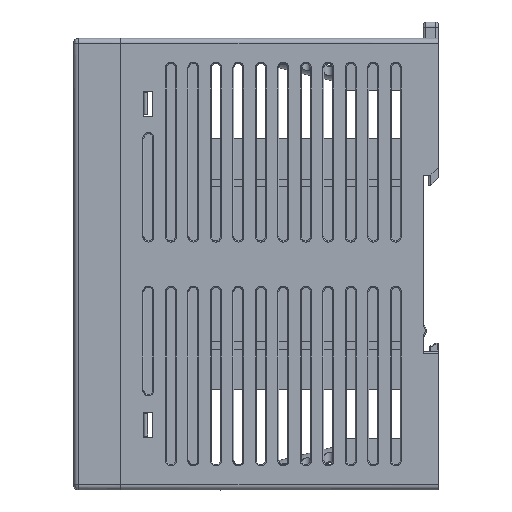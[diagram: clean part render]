
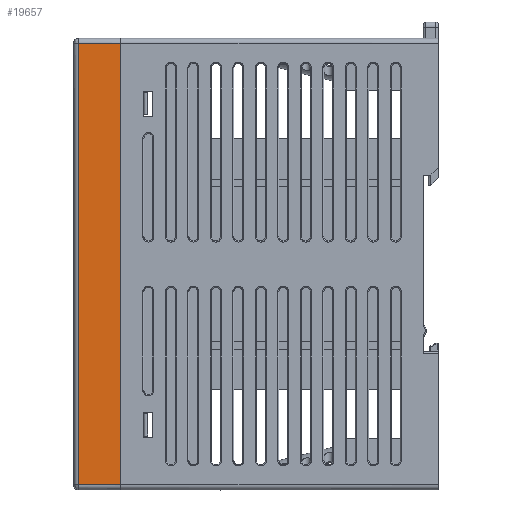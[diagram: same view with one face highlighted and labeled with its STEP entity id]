
A CAD part, left-side view. The second image highlights one B-rep face of the part: STEP entity #19657.
In plain terms, the highlighted planar face has unit normal (-1, 0, 0).
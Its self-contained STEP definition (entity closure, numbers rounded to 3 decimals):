
#19657=ADVANCED_FACE('',(#21234),#55659,.T.);
#21234=FACE_OUTER_BOUND('',#22822,.T.);
#22822=EDGE_LOOP('',(#24963,#24964,#24965,#24966));
#24963=ORIENTED_EDGE('',*,*,#33429,.T.);
#24964=ORIENTED_EDGE('',*,*,#33432,.T.);
#24965=ORIENTED_EDGE('',*,*,#33431,.T.);
#24966=ORIENTED_EDGE('',*,*,#33430,.T.);
#33429=EDGE_CURVE('',#47693,#47694,#41833,.T.);
#33430=EDGE_CURVE('',#47695,#47693,#41834,.T.);
#33431=EDGE_CURVE('',#47696,#47695,#41835,.T.);
#33432=EDGE_CURVE('',#47694,#47696,#41836,.T.);
#41833=B_SPLINE_CURVE_WITH_KNOTS('',1,(#61281,#61282),.UNSPECIFIED.,.F.,
 .F.,(2,2),(-8.4,0.),.UNSPECIFIED.);
#41834=B_SPLINE_CURVE_WITH_KNOTS('',1,(#61283,#61284),.UNSPECIFIED.,.F.,
 .F.,(2,2),(-88.,0.),.UNSPECIFIED.);
#41835=B_SPLINE_CURVE_WITH_KNOTS('',1,(#61285,#61286),.UNSPECIFIED.,.F.,
 .F.,(2,2),(-8.4,0.),.UNSPECIFIED.);
#41836=B_SPLINE_CURVE_WITH_KNOTS('',1,(#61287,#61288),.UNSPECIFIED.,.F.,
 .F.,(2,2),(-88.,0.),.UNSPECIFIED.);
#47693=VERTEX_POINT('',#61277);
#47694=VERTEX_POINT('',#61278);
#47695=VERTEX_POINT('',#61279);
#47696=VERTEX_POINT('',#61280);
#55659=PLANE('',#56728);
#56728=AXIS2_PLACEMENT_3D('',#61276,#57965,$);
#57965=DIRECTION('',(-1.,0.,0.));
#61276=CARTESIAN_POINT('',(-12.5,62.346,-52.914));
#61277=CARTESIAN_POINT('',(-12.5,71.7,-44.));
#61278=CARTESIAN_POINT('',(-12.5,63.3,-44.));
#61279=CARTESIAN_POINT('',(-12.5,71.7,44.));
#61280=CARTESIAN_POINT('',(-12.5,63.3,44.));
#61281=CARTESIAN_POINT('',(-12.5,71.7,-44.));
#61282=CARTESIAN_POINT('',(-12.5,63.3,-44.));
#61283=CARTESIAN_POINT('',(-12.5,71.7,44.));
#61284=CARTESIAN_POINT('',(-12.5,71.7,-44.));
#61285=CARTESIAN_POINT('',(-12.5,63.3,44.));
#61286=CARTESIAN_POINT('',(-12.5,71.7,44.));
#61287=CARTESIAN_POINT('',(-12.5,63.3,-44.));
#61288=CARTESIAN_POINT('',(-12.5,63.3,44.));
